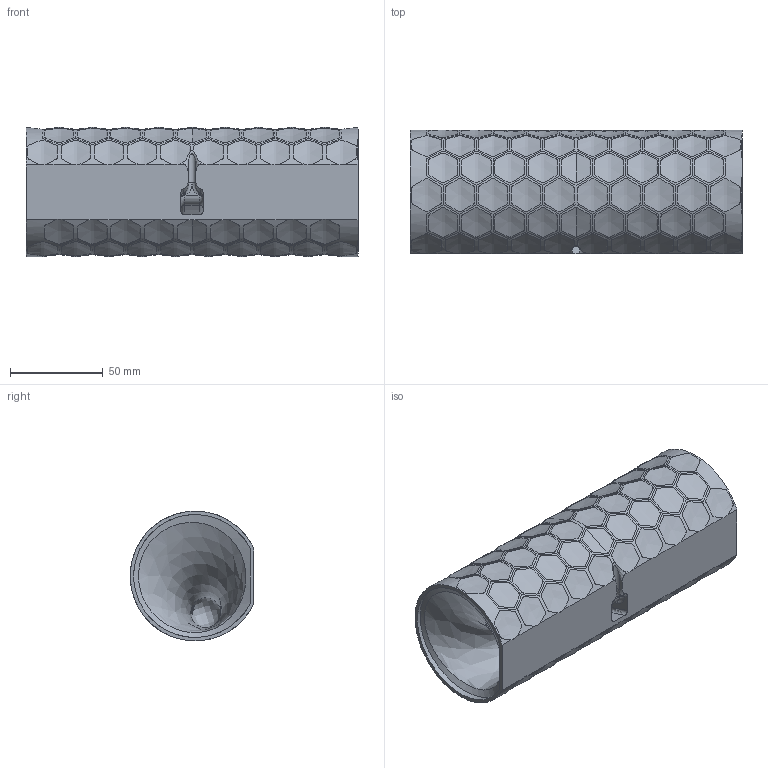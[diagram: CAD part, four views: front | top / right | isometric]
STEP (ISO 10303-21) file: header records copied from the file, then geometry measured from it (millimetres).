
FILE_DESCRIPTION (( 'STEP AP214' ), '1' );
FILE_NAME ('Body - Basic.STEP', '2015-03-13T18:49:18', ( '' ), ( '' ), 'SwSTEP 2.0', 'SolidWorks 2015', '' );
FILE_SCHEMA (( 'AUTOMOTIVE_DESIGN' ));
Products named in the file (1): Body - Basic
Bounding box: 179.26 x 66.62 x 70 mm (x, y, z)
Volume: 523905.3 mm3; surface area: 61247.6 mm2
Topology: 1 solids, 1 shells, 317 faces, 2072 edges, 1802 vertices
Faces by surface type: bspline 151, cylinder 135, plane 23, torus 6, sphere 2
Full cylindrical faces by diameter (mm): 1.25 x38
Entity records: 100648 total; most frequent: CARTESIAN_POINT 88112, ORIENTED_EDGE 3972, EDGE_CURVE 1986, VERTEX_POINT 1760, B_SPLINE_CURVE_WITH_KNOTS 1690, DIRECTION 774, EDGE_LOOP 484, FACE_OUTER_BOUND 359
